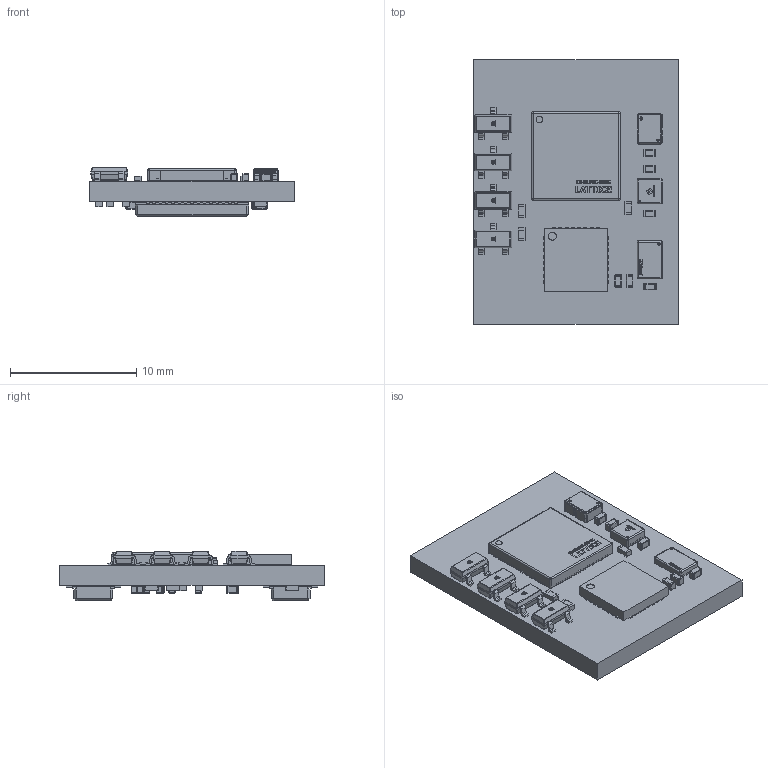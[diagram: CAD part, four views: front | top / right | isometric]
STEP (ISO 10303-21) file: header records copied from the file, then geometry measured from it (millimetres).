
FILE_DESCRIPTION(('Open CASCADE Model'),'2;1');
FILE_NAME('Open CASCADE Shape Model','2023-03-13T10:38:36',('Author'),( 'Open CASCADE'),'Open CASCADE STEP processor 7.5','Open CASCADE 7.5' ,'Unknown');
FILE_SCHEMA(('AUTOMOTIVE_DESIGN { 1 0 10303 214 1 1 1 1 }'));
Length unit declared in the file: millimetre
Products named in the file (161): PCB; Board; Open CASCADE STEP translator 7.5 1.1.1; Q3; Trans_ON_Semi_FDN339AN_eec; IC_BODY; IC_LEG; ON Semiconductor; C2; CAPC1005X60N EIA 0402; C1; R9; 6189533264; Mid_Body; Terminal; Open CASCADE STEP translator 6.8 11.2.1; Mark; R8; Q4; R1; J1; DF23C-30DP-0.5V; J2; U5; IC_Microchip_MCP73830T-2AAI-MYY_eec; 1; 2; Microchip logo; Microship Logo x0.4; C18; C17; Y1; Crys_CTS_Components_625L3C040M00000_eec; 3; 4; 5; CTS Resistor Products Logo; U4; IC_Winbond_W25Q80DVUXIE_TR_eec; logo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
Assembly tree (190 placements, depth 5):
  PCB
    Board
      Open CASCADE STEP translator 7.5 1.1.1
    Q3
      Trans_ON_Semi_FDN339AN_eec
        IC_BODY
        IC_LEG  x3
        ON Semiconductor
    C2
      CAPC1005X60N EIA 0402
    C1
      CAPC1005X60N EIA 0402
    R9
      6189533264
        Mid_Body
        Terminal  x2
          Open CASCADE STEP translator 6.8 11.2.1
        Mark
    R8
      6189533264
        Mid_Body
        Terminal  x2
          Open CASCADE STEP translator 6.8 11.2.1
        Mark
    Q4
      Trans_ON_Semi_FDN339AN_eec
        IC_BODY
        IC_LEG  x3
        ON Semiconductor
    R1
      6189533264
        Mid_Body
        Terminal  x2
          Open CASCADE STEP translator 6.8 11.2.1
        Mark
    J1
      DF23C-30DP-0.5V
    J2
      DF23C-30DP-0.5V
    U5
      IC_Microchip_MCP73830T-2AAI-MYY_eec
        1
        2
        Microchip logo
        Microship Logo x0.4
    C18
      CAPC1005X60N EIA 0402
    C17
      CAPC1005X60N EIA 0402
    Y1
      Crys_CTS_Components_625L3C040M00000_eec
        1
        2
        3
        4
        5
        CTS Resistor Products Logo
    U4
      IC_Winbond_W25Q80DVUXIE_TR_eec
        3
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Bounding box: 16.26 x 20.98 x 3.9 mm (x, y, z)
Volume: 690.3 mm3; surface area: 1592.7 mm2
Topology: 304 solids, 304 shells, 4995 faces, 12275 edges, 7822 vertices
Faces by surface type: plane 2934, bspline 1019, cylinder 782, sphere 180, extrusion 76, torus 4
Full cylindrical faces by diameter (mm): 0.121 x1, 0.174 x1, 0.18 x1, 0.534 x1, 0.625 x1
Entity records: 93882 total; most frequent: CARTESIAN_POINT 22900, ORIENTED_EDGE 11972, DIRECTION 10282, EDGE_CURVE 5986, VECTOR 4336, LINE 4260, VERTEX_POINT 3940, AXIS2_PLACEMENT_3D 2973
